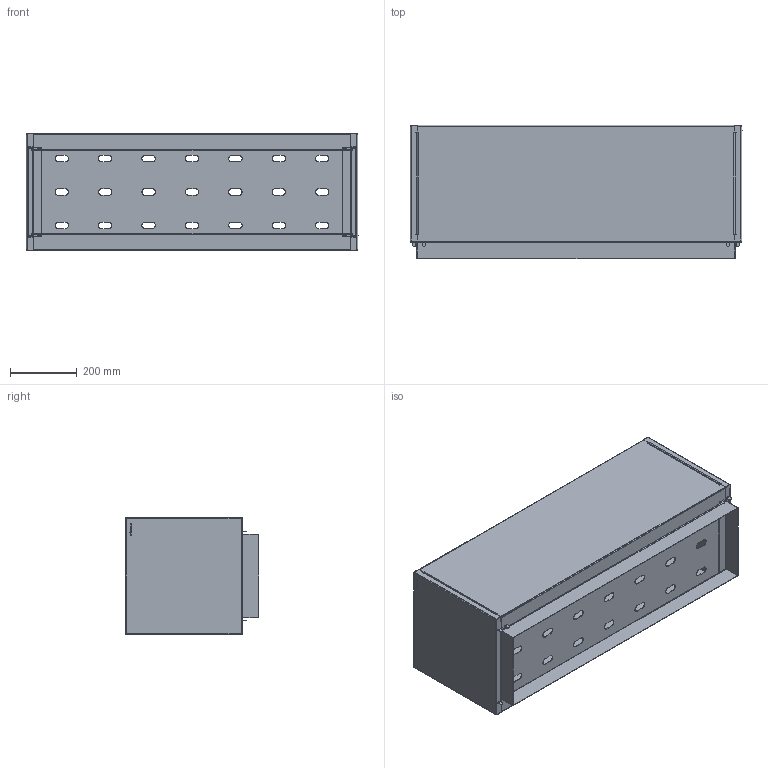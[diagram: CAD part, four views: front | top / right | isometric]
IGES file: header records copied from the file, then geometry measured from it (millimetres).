
Start section: SolidWorks IGES file using analytic representation for surfaces
Global section: file name: C:\VaultDeCastelli\Progetti\DC\PESO LEGGERO PRODOTTI\Ale\DeCastelli-3D-A-Modulo 40.igs; native system: SolidWorks 2022; preprocessor: SolidWorks 2022; author: AlessandroP; date: 240726.104100; units: millimetre
Bounding box: 994 x 400 x 350 mm (x, y, z)
Surface area: 2616650.8 mm2 (no closed solid volume)
Topology: 0 solids, 0 shells, 399 faces, 5118 edges, 5118 vertices
Faces by surface type: bspline 256, revolution 143
